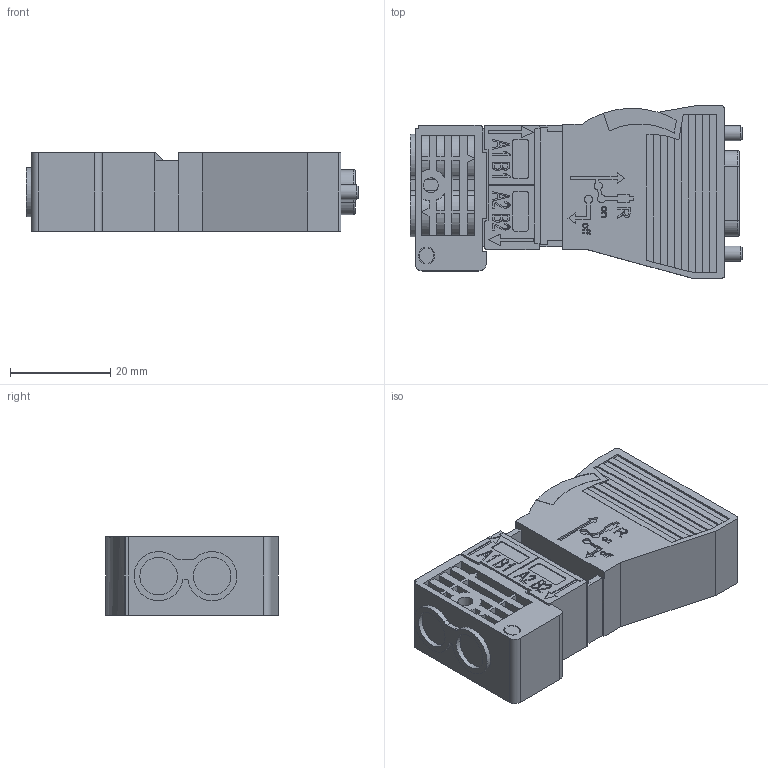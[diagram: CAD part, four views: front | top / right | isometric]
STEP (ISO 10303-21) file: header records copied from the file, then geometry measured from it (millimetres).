
FILE_DESCRIPTION((''),'2;1');
FILE_NAME('C:\TurckZip\SD9S-connector.stp','2007-08-24T09:02:10',('IKOROL'),(''),'Autodesk Inventor 11','Autodesk Inventor 11','');
FILE_SCHEMA(('AUTOMOTIVE_DESIGN { 1 0 10303 214 1 1 1 1 }'));
Length unit declared in the file: millimetre
Products named in the file (1): Part5
Bounding box: 66.15 x 34.3 x 15.7 mm (x, y, z)
Volume: 27042.4 mm3; surface area: 11309.7 mm2
Topology: 19 solids, 19 shells, 739 faces, 1890 edges, 1240 vertices
Faces by surface type: plane 480, cylinder 155, bspline 94, cone 6, torus 4
Full cylindrical faces by diameter (mm): 0.967 x9, 2.998 x2, 2.999 x2, 3 x4, 7.475 x2
Entity records: 22965 total; most frequent: CARTESIAN_POINT 5562, ORIENTED_EDGE 3704, DIRECTION 3272, EDGE_CURVE 1852, VECTOR 1316, LINE 1316, VERTEX_POINT 1234, AXIS2_PLACEMENT_3D 978
